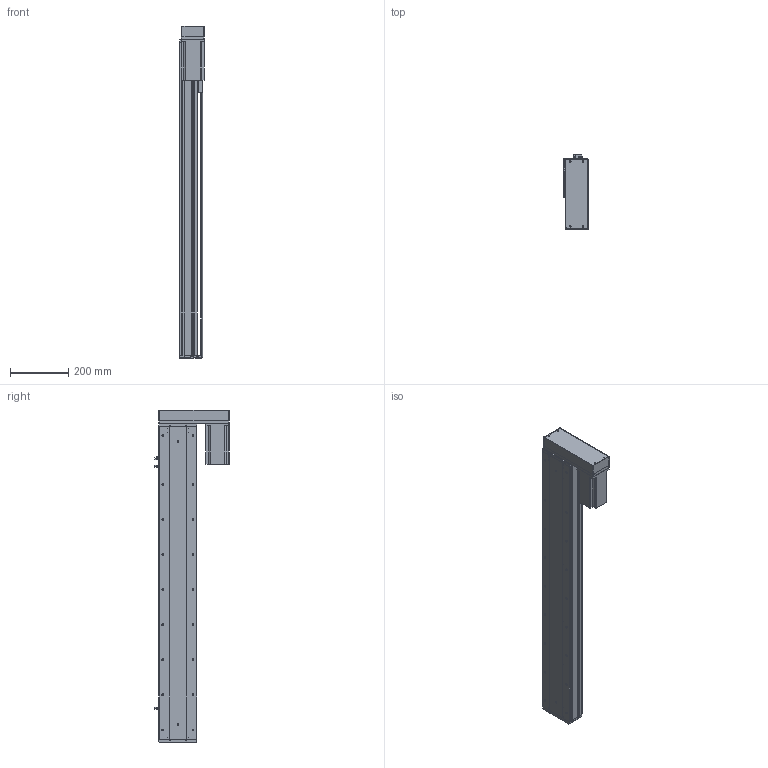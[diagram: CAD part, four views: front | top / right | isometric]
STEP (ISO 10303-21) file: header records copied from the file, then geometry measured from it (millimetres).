
FILE_DESCRIPTION (( 'STEP AP214' ), '1' );
FILE_NAME ('KSD130-P2010-S850-MR-CM.STEP', '2019-09-17T07:58:27', ( '微软用户' ), ( '微软中国' ), 'SwSTEP 2.0', 'SolidWorks 2014', '' );
FILE_SCHEMA (( 'AUTOMOTIVE_DESIGN' ));
Length unit declared in the file: millimetre
Products named in the file (11): 130宽滚珠丝杆安装板半封闭-20丝杠; 130宽马达安装板半封闭; 130遵傷裔圉猾敕; 130宽底板半封闭丝杠-850行程; KSD130-P2010-S850-MR-CM; 130宽模组保护罩左右折; 台达ECMA－C20807AS伺服电机; 130宽模组马达安装板连板左右折丝杆; U倰嫖萇EEㄜSX672; 覜茼え100遵圉猾敕; 130宽盖板半封闭丝杠-850行程
Assembly tree (12 placements, depth 2):
  KSD130-P2010-S850-MR-CM
    130宽底板半封闭丝杠-850行程
    130遵傷裔圉猾敕
    130宽马达安装板半封闭
    130宽滚珠丝杆安装板半封闭-20丝杠
    130宽盖板半封闭丝杠-850行程
    覜茼え100遵圉猾敕
    U倰嫖萇EEㄜSX672  x3
    130宽模组马达安装板连板左右折丝杆
    台达ECMA－C20807AS伺服电机
    130宽模组保护罩左右折
Bounding box: 85 x 253.7 x 1135.5 mm (x, y, z)
Volume: 4368932.6 mm3; surface area: 1204047.9 mm2
Topology: 13 solids, 13 shells, 1376 faces, 3889 edges, 2475 vertices
Faces by surface type: cylinder 659, plane 562, cone 155
Entity records: 45253 total; most frequent: CARTESIAN_POINT 8578, DIRECTION 6647, ORIENTED_EDGE 6434, EDGE_CURVE 3217, AXIS2_PLACEMENT_3D 2412, VERTEX_POINT 2099, LINE 1823, VECTOR 1823
